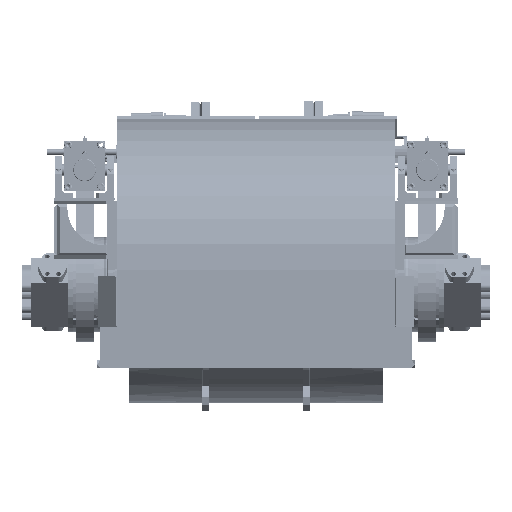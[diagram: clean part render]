
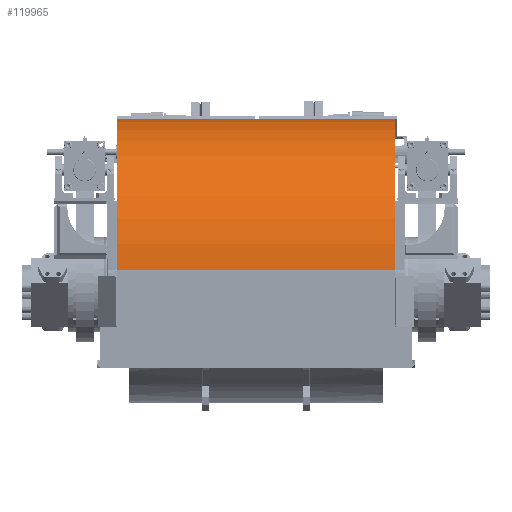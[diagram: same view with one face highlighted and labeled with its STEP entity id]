
A CAD part, front view. The second image highlights one B-rep face of the part: STEP entity #119965.
In plain terms, the highlighted cylindrical face has radius 600 mm (diameter 1200 mm), a partial arc.
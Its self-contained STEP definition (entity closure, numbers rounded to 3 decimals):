
#6285=CYLINDRICAL_SURFACE('',#128507,600.);
#10200=FACE_OUTER_BOUND('',#17146,.T.);
#17146=EDGE_LOOP('',(#88243,#88244,#88245,#88246));
#25054=LINE('',#220770,#34576);
#25055=LINE('',#220774,#34577);
#34576=VECTOR('',#147478,10.);
#34577=VECTOR('',#147481,10.);
#42658=CIRCLE('',#128508,600.);
#42659=CIRCLE('',#128509,600.);
#50035=VERTEX_POINT('',#220768);
#50036=VERTEX_POINT('',#220769);
#50037=VERTEX_POINT('',#220771);
#50038=VERTEX_POINT('',#220773);
#63773=EDGE_CURVE('',#50035,#50036,#25054,.T.);
#63774=EDGE_CURVE('',#50035,#50037,#42658,.T.);
#63775=EDGE_CURVE('',#50038,#50037,#25055,.T.);
#63776=EDGE_CURVE('',#50036,#50038,#42659,.T.);
#88243=ORIENTED_EDGE('',*,*,#63773,.F.);
#88244=ORIENTED_EDGE('',*,*,#63774,.T.);
#88245=ORIENTED_EDGE('',*,*,#63775,.F.);
#88246=ORIENTED_EDGE('',*,*,#63776,.F.);
#119965=ADVANCED_FACE('',(#10200),#6285,.T.);
#128507=AXIS2_PLACEMENT_3D('',#220767,#147476,#147477);
#128508=AXIS2_PLACEMENT_3D('',#220772,#147479,#147480);
#128509=AXIS2_PLACEMENT_3D('',#220775,#147482,#147483);
#147476=DIRECTION('center_axis',(1.,0.,0.));
#147477=DIRECTION('ref_axis',(0.,0.155,0.988));
#147478=DIRECTION('',(1.,0.,0.));
#147479=DIRECTION('center_axis',(1.,0.,0.));
#147480=DIRECTION('ref_axis',(0.,0.155,0.988));
#147481=DIRECTION('',(-1.,0.,0.));
#147482=DIRECTION('center_axis',(1.,0.,0.));
#147483=DIRECTION('ref_axis',(0.,0.155,0.988));
#220767=CARTESIAN_POINT('Origin',(-551.,35.,57.5));
#220768=CARTESIAN_POINT('',(-1102.,115.092,652.13));
#220769=CARTESIAN_POINT('',(0.,115.092,652.13));
#220770=CARTESIAN_POINT('',(-551.,115.092,652.13));
#220771=CARTESIAN_POINT('',(-1102.,-565.,57.5));
#220772=CARTESIAN_POINT('Origin',(-1102.,35.,57.5));
#220773=CARTESIAN_POINT('',(0.,-565.,57.5));
#220774=CARTESIAN_POINT('',(-551.,-565.,57.5));
#220775=CARTESIAN_POINT('Origin',(0.,35.,
57.5));
